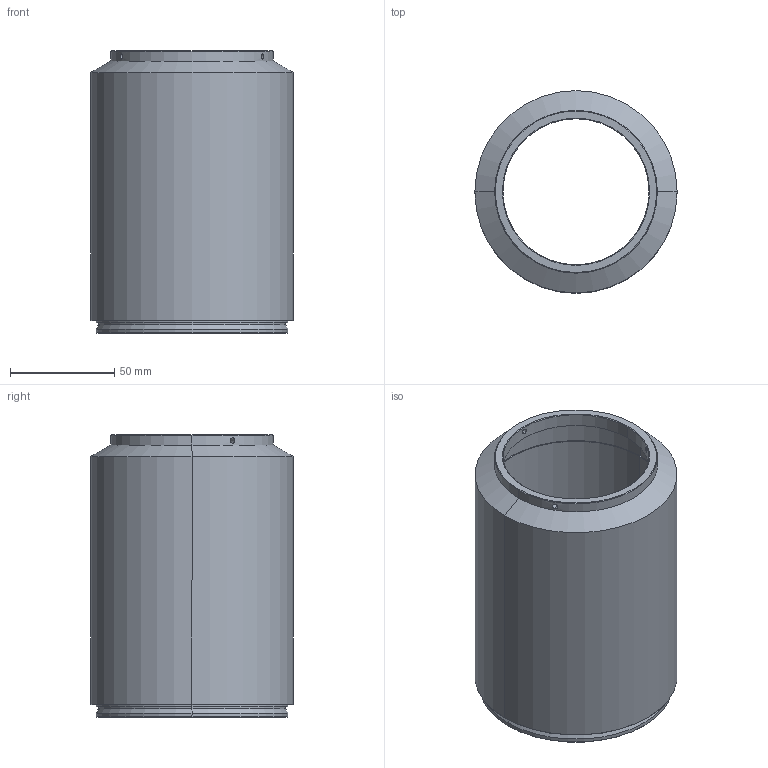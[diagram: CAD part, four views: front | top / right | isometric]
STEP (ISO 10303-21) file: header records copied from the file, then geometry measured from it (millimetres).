
FILE_DESCRIPTION (( 'STEP AP214' ), '1' );
FILE_NAME ('ML-12027-167-EXR-V70V92.STEP', '2026-02-25T01:31:13', ( '' ), ( '' ), 'SwSTEP 2.0', 'SolidWorks 2025', '' );
FILE_SCHEMA (( 'AUTOMOTIVE_DESIGN' ));
Length unit declared in the file: millimetre
Products named in the file (1): ML-12027-167-EXR-V70V92
Bounding box: 97 x 97 x 135.47 mm (x, y, z)
Volume: 204605.2 mm3; surface area: 82501.6 mm2
Topology: 1 solids, 1 shells, 43 faces, 92 edges, 54 vertices
Faces by surface type: cylinder 22, cone 16, plane 5
Entity records: 1395 total; most frequent: CARTESIAN_POINT 418, DIRECTION 210, ORIENTED_EDGE 184, EDGE_CURVE 92, AXIS2_PLACEMENT_3D 86, EDGE_LOOP 54, VERTEX_POINT 54, FACE_OUTER_BOUND 43
